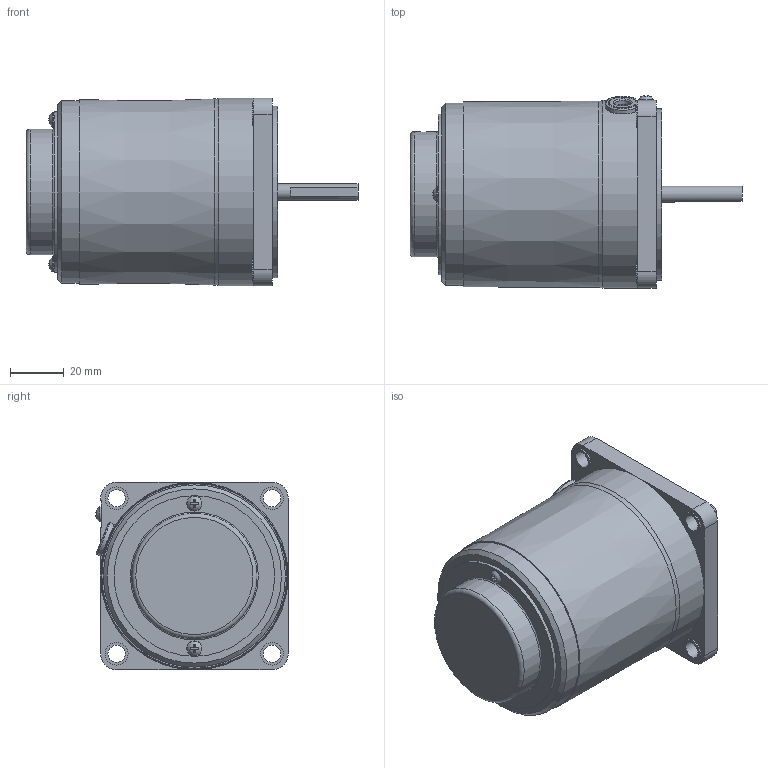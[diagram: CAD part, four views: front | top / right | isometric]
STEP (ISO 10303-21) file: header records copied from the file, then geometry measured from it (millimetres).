
FILE_DESCRIPTION(/* description */ (''),/* implementation_level */ '2;1');
FILE_NAME(/* name */ 'E:\도면작업\2016\0704) 미주향 SG 도면\3D MOTOR\SPEED CONTROL TYPE\SG7I(R)15D_-S12(24).stp',/* time_stamp */ '2017-08-21T10:55:11+09:00',/* author */ ('jy-jung'),/* organization */ (''),/* preprocessor_version */ 'ST-DEVELOPER v15.6',/* originating_system */ 'Autodesk Inventor 2015',/* authorisation */ '');
FILE_SCHEMA (('AUTOMOTIVE_DESIGN { 1 0 10303 214 3 1 1 }'));
Length unit declared in the file: millimetre
Products named in the file (1): 부품27
Bounding box: 123.8 x 71.76 x 70 mm (x, y, z)
Volume: 326922.5 mm3; surface area: 33351.3 mm2
Topology: 1 solids, 6 shells, 168 faces, 400 edges, 260 vertices
Faces by surface type: plane 106, cylinder 46, torus 10, bspline 3, cone 3
Full cylindrical faces by diameter (mm): 3 x2, 3.5 x2, 5 x1, 5.6 x3, 6 x2, 6.5 x4, 8.5 x4, 10 x1, 28 x1, 44.7 x1, 46.7 x1, 47.7 x1, 59.9 x1, 64 x1, 68 x1, 70 x1
Entity records: 5121 total; most frequent: CARTESIAN_POINT 1206, DIRECTION 746, ORIENTED_EDGE 712, EDGE_CURVE 356, AXIS2_PLACEMENT_3D 276, VERTEX_POINT 256, EDGE_LOOP 240, LINE 194
